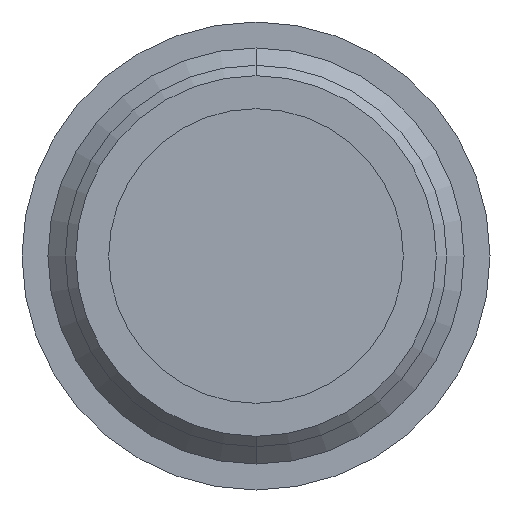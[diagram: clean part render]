
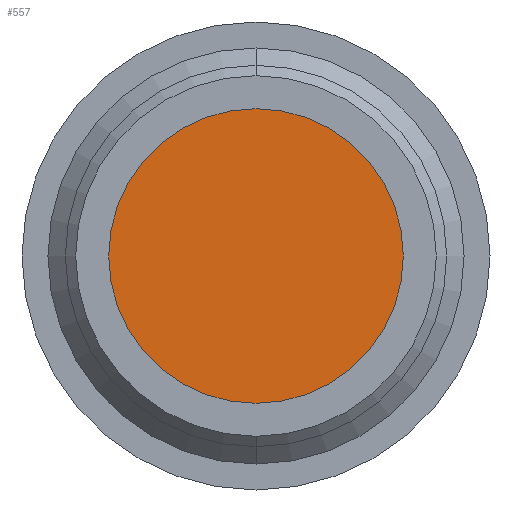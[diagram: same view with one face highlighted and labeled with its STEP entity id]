
A CAD part, front view. The second image highlights one B-rep face of the part: STEP entity #557.
In plain terms, the highlighted planar face has unit normal (0, -1, 0).
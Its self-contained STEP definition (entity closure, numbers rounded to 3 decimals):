
#66 = VERTEX_POINT ( 'NONE', #219 ) ;
#114 = DIRECTION ( 'NONE',  ( 0., -1., 0. ) ) ;
#117 = DIRECTION ( 'NONE',  ( 0., 0., -1. ) ) ;
#118 = FACE_OUTER_BOUND ( 'NONE', #171, .T. ) ;
#132 = DIRECTION ( 'NONE',  ( 0., -1., 0. ) ) ;
#137 = EDGE_CURVE ( 'NONE', #66, #502, #453, .T. ) ;
#139 = ORIENTED_EDGE ( 'NONE', *, *, #137, .T. ) ;
#171 = EDGE_LOOP ( 'NONE', ( #256, #139 ) ) ;
#219 = CARTESIAN_POINT ( 'NONE',  ( 0., 0., 4.25 ) ) ;
#246 = CARTESIAN_POINT ( 'NONE',  ( 0., 0., 0. ) ) ;
#256 = ORIENTED_EDGE ( 'NONE', *, *, #287, .T. ) ;
#262 = CARTESIAN_POINT ( 'NONE',  ( 0., 0., 0. ) ) ;
#287 = EDGE_CURVE ( 'NONE', #502, #66, #303, .T. ) ;
#303 = CIRCLE ( 'NONE', #486, 4.25 ) ;
#319 = CARTESIAN_POINT ( 'NONE',  ( 0., 0., -4.25 ) ) ;
#396 = DIRECTION ( 'NONE',  ( 0., -1., 0. ) ) ;
#453 = CIRCLE ( 'NONE', #498, 4.25 ) ;
#486 = AXIS2_PLACEMENT_3D ( 'NONE', #246, #396, #574 ) ;
#498 = AXIS2_PLACEMENT_3D ( 'NONE', #664, #132, #608 ) ;
#502 = VERTEX_POINT ( 'NONE', #319 ) ;
#557 = ADVANCED_FACE ( 'NONE', ( #118 ), #643, .T. ) ;
#571 = AXIS2_PLACEMENT_3D ( 'NONE', #262, #114, #117 ) ;
#574 = DIRECTION ( 'NONE',  ( 0., 0., -1. ) ) ;
#608 = DIRECTION ( 'NONE',  ( 0., 0., -1. ) ) ;
#643 = PLANE ( 'NONE',  #571 ) ;
#664 = CARTESIAN_POINT ( 'NONE',  ( 0., 0., 0. ) ) ;
